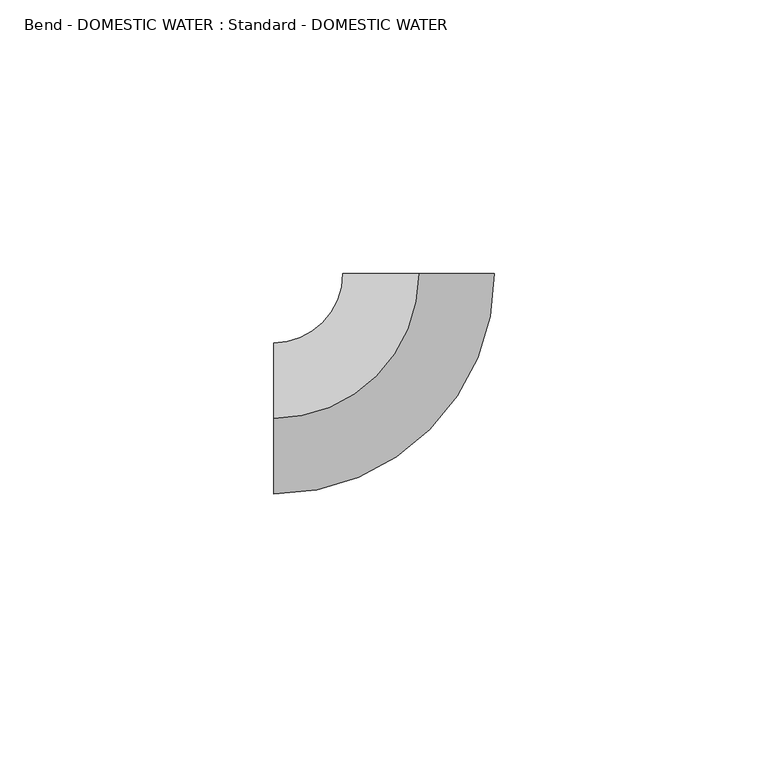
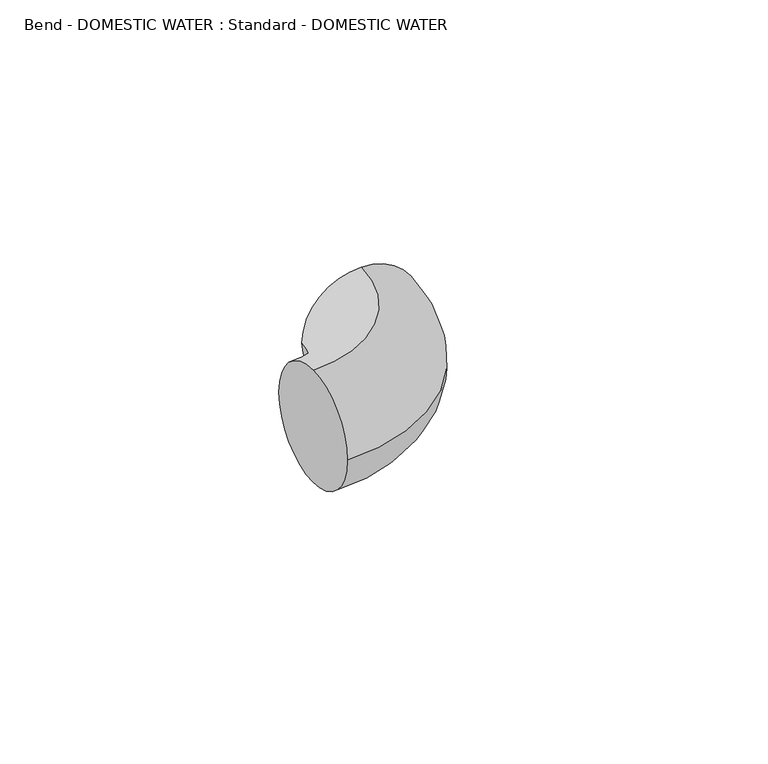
"""IFC4 building model written with IfcOpenShell, lengths in millimetres: pipe fitting geometry, Bend - DOMESTIC WATER : Standard - DOMESTIC WATER."""

import ifcopenshell
import ifcopenshell.guid

model = None  # the IFC model being written
_history = None  # IfcOwnerHistory: only IFC2X3 demands one
_inside = {}  # id of a spatial element -> (the spatial element, [elements in it])
_under = {}  # id of a project, library or spatial element -> (it, [spatial elements below it])
_declared = {}  # id of a project -> (the project, [libraries it declares])
_typed = {}  # id of a type object -> (the type object, [elements of that type])
_made_of = {}  # id of a material, layer set ... -> (it, [elements and type objects made of it])


def new_model(schema):
    """Start an empty IFC model of exactly this schema.

    Asked for "IFC4X3", IfcOpenShell would pick the latest addendum, in which some entities
    have other attributes; the version numbers below select the first issue.
    IFC2X3 requires an IfcOwnerHistory on every rooted entity: one is made here for all.
    """
    global model, _history
    if schema == "IFC4X3":
        model = ifcopenshell.file(schema_version=(4, 3, 0, 0))
    else:
        model = ifcopenshell.file(schema=schema)
    _inside.clear()
    _under.clear()
    _declared.clear()
    _typed.clear()
    _made_of.clear()
    _history = None
    if model.schema == "IFC2X3":
        org = make("IfcOrganization", Name="unknown")
        user = make(
            "IfcPersonAndOrganization",
            ThePerson=make("IfcPerson", FamilyName="unknown"),
            TheOrganization=org,
        )
        app = make(
            "IfcApplication",
            ApplicationDeveloper=org,
            Version="unknown",
            ApplicationFullName="unknown",
            ApplicationIdentifier="unknown",
        )
        _history = make(
            "IfcOwnerHistory",
            OwningUser=user,
            OwningApplication=app,
            ChangeAction="ADDED",
            CreationDate=0,
        )
    return model


def make(cls, **values):
    """One entity of the class cls with the attributes given. An attribute that is None is left unset."""
    return model.create_entity(
        cls, **{name: value for name, value in values.items() if value is not None}
    )


def rooted(cls, **values):
    """An entity with a GlobalId (a new one), such as an element, a storey or a relation."""
    return make(cls, GlobalId=ifcopenshell.guid.new(), OwnerHistory=_history, **values)


def si_unit(unit_type, name, prefix=None):
    """IfcSIUnit, for example si_unit("LENGTHUNIT", "METRE", prefix="MILLI")."""
    return make("IfcSIUnit", UnitType=unit_type, Prefix=prefix, Name=name)


def assignment(units):
    """IfcUnitAssignment: the units of a project."""
    return None if units is None else make("IfcUnitAssignment", Units=units)


def point(xyz):
    """IfcCartesianPoint."""
    return None if xyz is None else make("IfcCartesianPoint", Coordinates=xyz)


def direction(xyz):
    """IfcDirection."""
    return None if xyz is None else make("IfcDirection", DirectionRatios=xyz)


def frame(location, z_axis=None, x_axis=None):
    """IfcAxis2Placement3D, a coordinate frame: its origin and axes. An axis left out is left unset."""
    return make(
        "IfcAxis2Placement3D",
        Location=point(location),
        Axis=direction(z_axis),
        RefDirection=direction(x_axis),
    )


def origin():
    """The frame at (0, 0, 0) with its axes left unset."""
    return frame((0.0, 0.0, 0.0))


def place(relative_to, where):
    """IfcLocalPlacement: puts the frame where relative to a parent placement (None: the world)."""
    return make(
        "IfcLocalPlacement", PlacementRelTo=relative_to, RelativePlacement=where
    )


def context(
    kind, dimensions, precision=None, world=None, true_north=None, identifier=None
):
    """IfcGeometricRepresentationContext, for example the 3D "Model" context."""
    return make(
        "IfcGeometricRepresentationContext",
        ContextIdentifier=identifier,
        ContextType=kind,
        CoordinateSpaceDimension=dimensions,
        Precision=precision,
        WorldCoordinateSystem=world,
        TrueNorth=true_north,
    )


def project(units=None, contexts=None):
    """IfcProject with its units and contexts."""
    return rooted(
        "IfcProject",
        Name="project",
        RepresentationContexts=contexts,
        UnitsInContext=assignment(units),
    )


def spatial(cls, under=None, at=None, **own):
    """A site, building, storey or space (cls), placed at a placement, below another one or the project."""
    s = rooted(cls, ObjectPlacement=at, **own)
    if under is not None:
        _under.setdefault(under.id(), (under, []))[1].append(s)
    return s


def circle_curve(where, radius):
    """IfcCircle in the frame where."""
    return make("IfcCircle", Position=where, Radius=radius)


def ellipse_curve(where, semi_axis1, semi_axis2):
    """IfcEllipse in the frame where."""
    return make(
        "IfcEllipse", Position=where, SemiAxis1=semi_axis1, SemiAxis2=semi_axis2
    )


def trimmed(basis, trim1, trim2, sense, master):
    """IfcTrimmedCurve: the piece of a basis curve between two trims."""
    return make(
        "IfcTrimmedCurve",
        BasisCurve=basis,
        Trim1=trim1,
        Trim2=trim2,
        SenseAgreement=sense,
        MasterRepresentation=master,
    )


def shape(context_of_items, identifier, shape_type, items):
    """IfcShapeRepresentation: the items that make up one representation, for example the "Body"."""
    return make(
        "IfcShapeRepresentation",
        ContextOfItems=context_of_items,
        RepresentationIdentifier=identifier,
        RepresentationType=shape_type,
        Items=items,
    )


def source(mapping_origin, context_of_items, identifier, shape_type, items):
    """IfcRepresentationMap: a shape defined once, which mapped items show again and again."""
    return make(
        "IfcRepresentationMap",
        MappingOrigin=mapping_origin,
        MappedRepresentation=shape(context_of_items, identifier, shape_type, items),
    )


def transform(
    local_origin,
    x_axis=None,
    y_axis=None,
    z_axis=None,
    scale=None,
    scale2=None,
    scale3=None,
    uniform=True,
):
    """IfcCartesianTransformationOperator3D, or its non-uniform kind. x_axis, y_axis, z_axis: its Axis1, 2, 3."""
    if uniform:
        return make(
            "IfcCartesianTransformationOperator3D",
            Axis1=direction(x_axis),
            Axis2=direction(y_axis),
            LocalOrigin=point(local_origin),
            Scale=scale,
            Axis3=direction(z_axis),
        )
    return make(
        "IfcCartesianTransformationOperator3DnonUniform",
        Axis1=direction(x_axis),
        Axis2=direction(y_axis),
        LocalOrigin=point(local_origin),
        Scale=scale,
        Axis3=direction(z_axis),
        Scale2=scale2,
        Scale3=scale3,
    )


def mapped(mapping_source, mapping_target):
    """IfcMappedItem: shows the shape of a source again, moved by a transform."""
    return make(
        "IfcMappedItem", MappingSource=mapping_source, MappingTarget=mapping_target
    )


def made_of(thing, what):
    """Note that an element or type object is made of a material, layer set ...; save() writes the relation."""
    if what is not None:
        _made_of.setdefault(what.id(), (what, []))[1].append(thing)
    return thing


def element(
    cls,
    number,
    at=None,
    inside=None,
    cuts=None,
    type_object=None,
    material=None,
    context=None,
    identifier="Body",
    shape_type=None,
    held_by="IfcProductDefinitionShape",
    body=None,
    shapes=None,
    **own,
):
    """One element of the class cls, such as IfcWall. Its Tag is "e" and its number.

    at: its placement. inside: the storey or other place that contains it. cuts: it is an
    opening in that element (IfcRelVoidsElement). A single representation is given by context,
    identifier, shape_type and body (its items); several are given by shapes. held_by: the class
    of the entity that holds the representations. save() writes the other relations.
    """
    e = rooted(cls, Tag="e%d" % number, ObjectPlacement=at, **own)
    if body is not None:
        shapes = [shape(context, identifier, shape_type, body)]
    if shapes is not None:
        e.Representation = make(held_by, Representations=shapes)
    if inside is not None:
        _inside.setdefault(inside.id(), (inside, []))[1].append(e)
    if cuts is not None:
        rooted(
            "IfcRelVoidsElement", RelatingBuildingElement=cuts, RelatedOpeningElement=e
        )
    if type_object is not None:
        _typed.setdefault(type_object.id(), (type_object, []))[1].append(e)
    return made_of(e, material)


def aggregate(whole, parts):
    """IfcRelAggregates: a whole, such as a stair, and the parts it consists of."""
    return rooted("IfcRelAggregates", RelatingObject=whole, RelatedObjects=parts)


def save(model, path):
    """Write the relations noted so far, then the file.

    IfcRelAggregates (storeys below a building ...), IfcRelContainedInSpatialStructure (elements
    in a storey), IfcRelDefinesByType, IfcRelAssociatesMaterial and IfcRelDeclares: one each for
    every whole, place, type object, material and project.
    """
    for whole, parts in _under.values():
        aggregate(whole, parts)
    for where, things in _inside.values():
        rooted(
            "IfcRelContainedInSpatialStructure",
            RelatedElements=things,
            RelatingStructure=where,
        )
    for kind, things in _typed.values():
        rooted("IfcRelDefinesByType", RelatedObjects=things, RelatingType=kind)
    for what, things in _made_of.values():
        rooted("IfcRelAssociatesMaterial", RelatedObjects=things, RelatingMaterial=what)
    for by, libraries in _declared.values():
        rooted("IfcRelDeclares", RelatingContext=by, RelatedDefinitions=libraries)
    model.write(path)


def plane_surface(at):
    """IfcPlane: the flat surface through the origin of the frame at, square to its z axis."""
    return make("IfcPlane", Position=at)


def revolved_surface(curve, axis_point, axis_direction):
    """IfcSurfaceOfRevolution: the curve turned about the line through axis_point along axis_direction."""
    return make(
        "IfcSurfaceOfRevolution",
        SweptCurve=make("IfcArbitraryOpenProfileDef", ProfileType="CURVE", Curve=curve),
        AxisPosition=make("IfcAxis1Placement", Location=point(axis_point), Axis=direction(axis_direction)),
    )


def advanced_brep(points, edges, surfaces, faces):
    """IfcAdvancedBrep: a solid bounded by faces that lie on surfaces and meet in shared edges.

    An edge is (start, end): straight between two places in points (the first is 0);
    or (start, end, curve); or (start, end, curve, False) where it runs against its curve.
    A face is (place in surfaces, loops), or (place, loops, False) where it looks against
    its surface's normal. A loop lists edges by number (the first is 1), with a minus sign
    where the edge is run from its end to its start. The first loop is the outer one.
    """
    corners = [point(p) for p in points]
    vertices = [make("IfcVertexPoint", VertexGeometry=c) for c in corners]
    made = []
    for start, end, *more in edges:
        made.append(
            make(
                "IfcEdgeCurve",
                EdgeStart=vertices[start],
                EdgeEnd=vertices[end],
                EdgeGeometry=more[0] if more else make("IfcPolyline", Points=[corners[start], corners[end]]),
                SameSense=more[1] if len(more) > 1 else True,
            )
        )
    hull = []
    for where, loops, *sense in faces:
        bounds = []
        for j, loop in enumerate(loops):
            ring = [make("IfcOrientedEdge", EdgeElement=made[abs(k) - 1], Orientation=k > 0) for k in loop]
            bounds.append(
                make(
                    "IfcFaceOuterBound" if j == 0 else "IfcFaceBound",
                    Bound=make("IfcEdgeLoop", EdgeList=ring),
                    Orientation=True,
                )
            )
        hull.append(make("IfcAdvancedFace", Bounds=bounds, FaceSurface=surfaces[where], SameSense=sense[0] if sense else True))
    return make("IfcAdvancedBrep", Outer=make("IfcClosedShell", CfsFaces=hull))


def bend_domestic_water_standard_domestic_water_31580131(model_context):
    return source(origin(), model_context, "Body", "AdvancedBrep", [
        advanced_brep(
        [(-26.543, 0.0, 13.843), (-26.543, 13.843, 0.0), (-26.543, 0.0, -13.843), (-26.543, -13.843, 0.0), (0.0, 26.543, 13.843), (13.843, 26.543, 0.0), (0.0, 26.543, -13.843), (-13.843, 26.543, 0.0)],
        [
            (0, 1, circle_curve(frame((-26.543, 0.0, 0.0), z_axis=(-1.0, 0.0, 0.0), x_axis=(0.0, 1.0, 0.0)), 13.843)),
            (1, 2, circle_curve(frame((-26.543, 0.0, 0.0), z_axis=(-1.0, 0.0, 0.0), x_axis=(0.0, 1.0, 0.0)), 13.843)),
            (2, 3, circle_curve(frame((-26.543, 0.0, 0.0), z_axis=(-1.0, 0.0, 0.0), x_axis=(0.0, 1.0, 0.0)), 13.843)),
            (3, 0, circle_curve(frame((-26.543, 0.0, 0.0), z_axis=(-1.0, 0.0, 0.0), x_axis=(0.0, 1.0, 0.0)), 13.843)),
            (4, 5, circle_curve(frame((0.0, 26.543, 0.0), z_axis=(0.0, 1.0, 0.0), x_axis=(-1.0, 0.0, 0.0)), 13.843)),
            (5, 6, circle_curve(frame((0.0, 26.543, 0.0), z_axis=(0.0, 1.0, 0.0), x_axis=(-1.0, 0.0, 0.0)), 13.843)),
            (6, 7, circle_curve(frame((0.0, 26.543, 0.0), z_axis=(0.0, 1.0, 0.0), x_axis=(-1.0, 0.0, 0.0)), 13.843)),
            (7, 4, circle_curve(frame((0.0, 26.543, 0.0), z_axis=(0.0, 1.0, 0.0), x_axis=(-1.0, 0.0, 0.0)), 13.843)),
            (7, 1, circle_curve(frame((-26.543, 26.543, 0.0), z_axis=(0.0, 0.0, -1.0), x_axis=(0.0, -1.0, 0.0)), 12.7)),
            (0, 4, circle_curve(frame((-26.543, 26.543, 13.843), z_axis=(0.0, 0.0, 1.0), x_axis=(0.0, -1.0, 0.0)), 26.543)),
            (6, 2, circle_curve(frame((-26.543, 26.543, -13.843), z_axis=(0.0, 0.0, -1.0), x_axis=(0.0, -1.0, 0.0)), 26.543)),
            (5, 3, circle_curve(frame((-26.543, 26.543, 0.0), z_axis=(0.0, 0.0, -1.0), x_axis=(0.0, -1.0, 0.0)), 40.386)),
        ],
        [
            plane_surface(frame((-26.543, 0.0, 0.0), z_axis=(-1.0, 0.0, 0.0), x_axis=(0.0, 0.0, 1.0))),
            plane_surface(frame((0.0, 26.543, 0.0), z_axis=(0.0, 1.0, 0.0), x_axis=(0.0, 0.0, 1.0))),
            revolved_surface(trimmed(ellipse_curve(frame((-26.543, 0.0, 0.0), z_axis=(-1.0, 0.0, 0.0), x_axis=(0.0, 1.0, 0.0)), 13.843, 13.843), [point((-26.543, 0.0, 13.843))], [point((-26.543, 13.843, 0.0))], True, "CARTESIAN"), (-26.543, 26.543, 0.0), (0.0, 0.0, 1.0)),
            revolved_surface(trimmed(ellipse_curve(frame((-26.543, 0.0, 0.0), z_axis=(-1.0, 0.0, 0.0), x_axis=(0.0, 1.0, 0.0)), 13.843, 13.843), [point((-26.543, 13.843, 0.0))], [point((-26.543, 0.0, -13.843))], True, "CARTESIAN"), (-26.543, 26.543, 0.0), (0.0, 0.0, 1.0)),
            revolved_surface(trimmed(ellipse_curve(frame((-26.543, 0.0, 0.0), z_axis=(-1.0, 0.0, 0.0), x_axis=(0.0, 1.0, 0.0)), 13.843, 13.843), [point((-26.543, 0.0, -13.843))], [point((-26.543, -13.843, 0.0))], True, "CARTESIAN"), (-26.543, 26.543, 0.0), (0.0, 0.0, 1.0)),
            revolved_surface(trimmed(ellipse_curve(frame((-26.543, 0.0, 0.0), z_axis=(-1.0, 0.0, 0.0), x_axis=(0.0, 1.0, 0.0)), 13.843, 13.843), [point((-26.543, -13.843, 0.0))], [point((-26.543, 0.0, 13.843))], True, "CARTESIAN"), (-26.543, 26.543, 0.0), (0.0, 0.0, 1.0)),
        ],
        [
            (0, [[1, 2, 3, 4]]),
            (1, [[5, 6, 7, 8]]),
            (2, [[9, -1, 10, -8]]),
            (3, [[11, -2, -9, -7]]),
            (4, [[12, -3, -11, -6]]),
            (5, [[-10, -4, -12, -5]]),
        ],
    ),
        advanced_brep(
        [(-26.543, 0.0, 13.843), (-26.543, 13.843, 0.0), (-26.543, 0.0, -13.843), (-26.543, -13.843, 0.0), (0.0, 26.543, 13.843), (13.843, 26.543, 0.0), (0.0, 26.543, -13.843), (-13.843, 26.543, 0.0)],
        [
            (0, 1, circle_curve(frame((-26.543, 0.0, 0.0), z_axis=(-1.0, 0.0, 0.0), x_axis=(0.0, 1.0, 0.0)), 13.843)),
            (1, 2, circle_curve(frame((-26.543, 0.0, 0.0), z_axis=(-1.0, 0.0, 0.0), x_axis=(0.0, 1.0, 0.0)), 13.843)),
            (2, 3, circle_curve(frame((-26.543, 0.0, 0.0), z_axis=(-1.0, 0.0, 0.0), x_axis=(0.0, 1.0, 0.0)), 13.843)),
            (3, 0, circle_curve(frame((-26.543, 0.0, 0.0), z_axis=(-1.0, 0.0, 0.0), x_axis=(0.0, 1.0, 0.0)), 13.843)),
            (4, 5, circle_curve(frame((0.0, 26.543, 0.0), z_axis=(0.0, 1.0, 0.0), x_axis=(-1.0, 0.0, 0.0)), 13.843)),
            (5, 6, circle_curve(frame((0.0, 26.543, 0.0), z_axis=(0.0, 1.0, 0.0), x_axis=(-1.0, 0.0, 0.0)), 13.843)),
            (6, 7, circle_curve(frame((0.0, 26.543, 0.0), z_axis=(0.0, 1.0, 0.0), x_axis=(-1.0, 0.0, 0.0)), 13.843)),
            (7, 4, circle_curve(frame((0.0, 26.543, 0.0), z_axis=(0.0, 1.0, 0.0), x_axis=(-1.0, 0.0, 0.0)), 13.843)),
            (7, 1, circle_curve(frame((-26.543, 26.543, 0.0), z_axis=(0.0, 0.0, -1.0), x_axis=(0.0, -1.0, 0.0)), 12.7)),
            (0, 4, circle_curve(frame((-26.543, 26.543, 13.843), z_axis=(0.0, 0.0, 1.0), x_axis=(0.0, -1.0, 0.0)), 26.543)),
            (6, 2, circle_curve(frame((-26.543, 26.543, -13.843), z_axis=(0.0, 0.0, -1.0), x_axis=(0.0, -1.0, 0.0)), 26.543)),
            (5, 3, circle_curve(frame((-26.543, 26.543, 0.0), z_axis=(0.0, 0.0, -1.0), x_axis=(0.0, -1.0, 0.0)), 40.386)),
        ],
        [
            plane_surface(frame((-26.543, 0.0, 0.0), z_axis=(-1.0, 0.0, 0.0), x_axis=(0.0, 0.0, 1.0))),
            plane_surface(frame((0.0, 26.543, 0.0), z_axis=(0.0, 1.0, 0.0), x_axis=(0.0, 0.0, 1.0))),
            revolved_surface(trimmed(ellipse_curve(frame((-26.543, 0.0, 0.0), z_axis=(-1.0, 0.0, 0.0), x_axis=(0.0, 1.0, 0.0)), 13.843, 13.843), [point((-26.543, 0.0, 13.843))], [point((-26.543, 13.843, 0.0))], True, "CARTESIAN"), (-26.543, 26.543, 0.0), (0.0, 0.0, 1.0)),
            revolved_surface(trimmed(ellipse_curve(frame((-26.543, 0.0, 0.0), z_axis=(-1.0, 0.0, 0.0), x_axis=(0.0, 1.0, 0.0)), 13.843, 13.843), [point((-26.543, 13.843, 0.0))], [point((-26.543, 0.0, -13.843))], True, "CARTESIAN"), (-26.543, 26.543, 0.0), (0.0, 0.0, 1.0)),
            revolved_surface(trimmed(ellipse_curve(frame((-26.543, 0.0, 0.0), z_axis=(-1.0, 0.0, 0.0), x_axis=(0.0, 1.0, 0.0)), 13.843, 13.843), [point((-26.543, 0.0, -13.843))], [point((-26.543, -13.843, 0.0))], True, "CARTESIAN"), (-26.543, 26.543, 0.0), (0.0, 0.0, 1.0)),
            revolved_surface(trimmed(ellipse_curve(frame((-26.543, 0.0, 0.0), z_axis=(-1.0, 0.0, 0.0), x_axis=(0.0, 1.0, 0.0)), 13.843, 13.843), [point((-26.543, -13.843, 0.0))], [point((-26.543, 0.0, 13.843))], True, "CARTESIAN"), (-26.543, 26.543, 0.0), (0.0, 0.0, 1.0)),
        ],
        [
            (0, [[1, 2, 3, 4]]),
            (1, [[5, 6, 7, 8]]),
            (2, [[9, -1, 10, -8]]),
            (3, [[11, -2, -9, -7]]),
            (4, [[12, -3, -11, -6]]),
            (5, [[-10, -4, -12, -5]]),
        ],
    ),
    ])


if __name__ == "__main__":
    model = new_model("IFC4")
    model_context = context("Model", 3, world=origin())
    ifc_project = project(units=[si_unit("LENGTHUNIT", "METRE", prefix="MILLI")], contexts=[model_context])
    site = spatial("IfcSite", under=ifc_project)
    building = spatial("IfcBuilding", under=site)
    placement = place(None, origin())
    bend_domestic_water_standard_domestic_water_shape = bend_domestic_water_standard_domestic_water_31580131(model_context)
    element("IfcPipeFitting", 1, ObjectType="Bend - DOMESTIC WATER : Standard - DOMESTIC WATER", at=placement, inside=building, context=model_context, shape_type="MappedRepresentation", body=[
        mapped(bend_domestic_water_standard_domestic_water_shape, transform((0.0, 0.0, 0.0), x_axis=(1.0, 0.0, 0.0), y_axis=(0.0, 1.0, 0.0), z_axis=(0.0, 0.0, 1.0))),
    ])
    save(model, "model.ifc")
